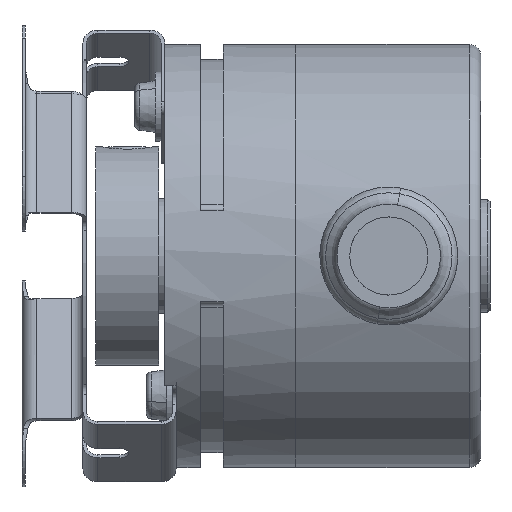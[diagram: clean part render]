
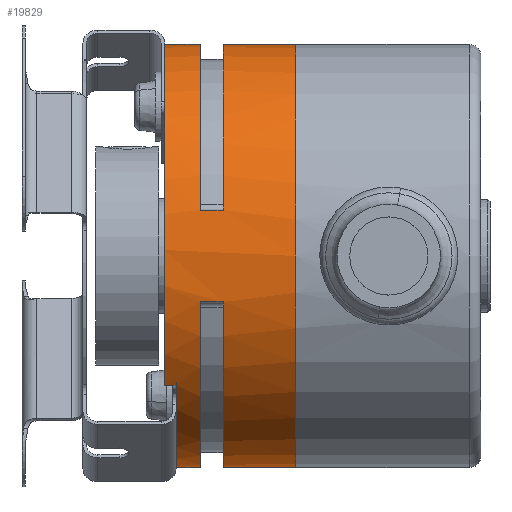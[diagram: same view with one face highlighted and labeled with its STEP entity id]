
A CAD part, front view. The second image highlights one B-rep face of the part: STEP entity #19829.
In plain terms, the highlighted cylindrical face has radius 18.4 mm (diameter 36.8 mm), a partial arc.
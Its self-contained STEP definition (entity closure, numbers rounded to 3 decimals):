
#17689 = VERTEX_POINT ( 'NONE', #20720 ) ;
#17690 = VERTEX_POINT ( 'NONE', #20719 ) ;
#17692 = EDGE_CURVE ( 'NONE', #17690, #17693, #20718, .T. ) ;
#17693 = VERTEX_POINT ( 'NONE', #20714 ) ;
#17716 = VERTEX_POINT ( 'NONE', #20771 ) ;
#17718 = EDGE_CURVE ( 'NONE', #17716, #17719, #20770, .T. ) ;
#17719 = VERTEX_POINT ( 'NONE', #20831 ) ;
#17722 = VERTEX_POINT ( 'NONE', #20825 ) ;
#17731 = VERTEX_POINT ( 'NONE', #20807 ) ;
#17733 = EDGE_CURVE ( 'NONE', #17689, #17731, #20805, .T. ) ;
#17807 = EDGE_CURVE ( 'NONE', #17808, #17722, #21092, .T. ) ;
#17808 = VERTEX_POINT ( 'NONE', #21088 ) ;
#19753 = ORIENTED_EDGE ( 'NONE', *, *, #19754, .F. ) ;
#19754 = EDGE_CURVE ( 'NONE', #19755, #17722, #32116, .T. ) ;
#19755 = VERTEX_POINT ( 'NONE', #32107 ) ;
#19764 = ORIENTED_EDGE ( 'NONE', *, *, #19765, .T. ) ;
#19765 = EDGE_CURVE ( 'NONE', #19787, #19766, #32133, .T. ) ;
#19766 = VERTEX_POINT ( 'NONE', #32129 ) ;
#19767 = ORIENTED_EDGE ( 'NONE', *, *, #19768, .F. ) ;
#19768 = EDGE_CURVE ( 'NONE', #17808, #19766, #32128, .T. ) ;
#19769 = ORIENTED_EDGE ( 'NONE', *, *, #17807, .T. ) ;
#19783 = ORIENTED_EDGE ( 'NONE', *, *, #19837, .T. ) ;
#19784 = ORIENTED_EDGE ( 'NONE', *, *, #17733, .T. ) ;
#19785 = ORIENTED_EDGE ( 'NONE', *, *, #19786, .T. ) ;
#19786 = EDGE_CURVE ( 'NONE', #17731, #19787, #32170, .T. ) ;
#19787 = VERTEX_POINT ( 'NONE', #32165 ) ;
#19801 = ORIENTED_EDGE ( 'NONE', *, *, #19816, .F. ) ;
#19802 = VERTEX_POINT ( 'NONE', #32196 ) ;
#19803 = ORIENTED_EDGE ( 'NONE', *, *, #19811, .T. ) ;
#19805 = ORIENTED_EDGE ( 'NONE', *, *, #19819, .F. ) ;
#19806 = ORIENTED_EDGE ( 'NONE', *, *, #19875, .F. ) ;
#19808 = ORIENTED_EDGE ( 'NONE', *, *, #17718, .F. ) ;
#19811 = EDGE_CURVE ( 'NONE', #19821, #19877, #32189, .T. ) ;
#19815 = EDGE_CURVE ( 'NONE', #19802, #17716, #32179, .T. ) ;
#19816 = EDGE_CURVE ( 'NONE', #17719, #19877, #32235, .T. ) ;
#19819 = EDGE_CURVE ( 'NONE', #19874, #19755, #32228, .T. ) ;
#19821 = VERTEX_POINT ( 'NONE', #32270 ) ;
#19829 = ADVANCED_FACE ( 'NONE', ( #32251 ), #32295, .T. ) ;
#19830 = EDGE_LOOP ( 'NONE', ( #19831, #19783, #19784, #19785, #19764, #19767, #19769, #19753, #19805, #19869, #19803, #19801, #19808, #19878, #19806, #19870 ) ) ;
#19831 = ORIENTED_EDGE ( 'NONE', *, *, #17692, .F. ) ;
#19837 = EDGE_CURVE ( 'NONE', #17690, #17689, #32318, .T. ) ;
#19868 = EDGE_CURVE ( 'NONE', #19821, #19874, #32417, .T. ) ;
#19869 = ORIENTED_EDGE ( 'NONE', *, *, #19868, .F. ) ;
#19870 = ORIENTED_EDGE ( 'NONE', *, *, #19871, .T. ) ;
#19871 = EDGE_CURVE ( 'NONE', #19876, #17693, #32411, .T. ) ;
#19874 = VERTEX_POINT ( 'NONE', #32441 ) ;
#19875 = EDGE_CURVE ( 'NONE', #19876, #19802, #32440, .T. ) ;
#19876 = VERTEX_POINT ( 'NONE', #32436 ) ;
#19877 = VERTEX_POINT ( 'NONE', #32435 ) ;
#19878 = ORIENTED_EDGE ( 'NONE', *, *, #19815, .F. ) ;
#20714 = CARTESIAN_POINT ( 'NONE',  ( 86.26, -17.498, -18.4 ) ) ;
#20715 = DIRECTION ( 'NONE',  ( -1., 0., 0. ) ) ;
#20716 = VECTOR ( 'NONE', #20715, 1000. ) ;
#20717 = CARTESIAN_POINT ( 'NONE',  ( 76.76, -17.498, -18.4 ) ) ;
#20718 = LINE ( 'NONE', #20717, #20716 ) ;
#20719 = CARTESIAN_POINT ( 'NONE',  ( 92.56, -17.498, -18.4 ) ) ;
#20720 = CARTESIAN_POINT ( 'NONE',  ( 92.56, -17.498, 18.4 ) ) ;
#20770 = LINE ( 'NONE', #20834, #20833 ) ;
#20771 = CARTESIAN_POINT ( 'NONE',  ( 84.26, -17.498, -18.4 ) ) ;
#20802 = DIRECTION ( 'NONE',  ( -1., 0., 0. ) ) ;
#20803 = VECTOR ( 'NONE', #20802, 1000. ) ;
#20804 = CARTESIAN_POINT ( 'NONE',  ( 76.76, -17.498, 18.4 ) ) ;
#20805 = LINE ( 'NONE', #20804, #20803 ) ;
#20807 = CARTESIAN_POINT ( 'NONE',  ( 86.26, -17.498, 18.4 ) ) ;
#20825 = CARTESIAN_POINT ( 'NONE',  ( 81.16, -17.498, 18.4 ) ) ;
#20831 = CARTESIAN_POINT ( 'NONE',  ( 81.16, -17.498, -18.4 ) ) ;
#20832 = DIRECTION ( 'NONE',  ( -1., 0., 0. ) ) ;
#20833 = VECTOR ( 'NONE', #20832, 1000. ) ;
#20834 = CARTESIAN_POINT ( 'NONE',  ( 76.76, -17.498, -18.4 ) ) ;
#21088 = CARTESIAN_POINT ( 'NONE',  ( 84.26, -17.498, 18.4 ) ) ;
#21089 = DIRECTION ( 'NONE',  ( -1., 0., 0. ) ) ;
#21090 = VECTOR ( 'NONE', #21089, 1000. ) ;
#21091 = CARTESIAN_POINT ( 'NONE',  ( 76.76, -17.498, 18.4 ) ) ;
#21092 = LINE ( 'NONE', #21091, #21090 ) ;
#32107 = CARTESIAN_POINT ( 'NONE',  ( 81.16, -32.069, -11.237 ) ) ;
#32108 = DIRECTION ( 'NONE',  ( 0., 0., 1. ) ) ;
#32109 = DIRECTION ( 'NONE',  ( -1., 0., 0. ) ) ;
#32110 = CARTESIAN_POINT ( 'NONE',  ( 81.16, -17.498, 0. ) ) ;
#32111 = AXIS2_PLACEMENT_3D ( 'NONE', #32110, #32109, #32108 ) ;
#32116 = CIRCLE ( 'NONE', #32111, 18.4 ) ;
#32123 = DIRECTION ( 'NONE',  ( 0., 0., -1. ) ) ;
#32124 = DIRECTION ( 'NONE',  ( 1., 0., 0. ) ) ;
#32126 = CARTESIAN_POINT ( 'NONE',  ( 84.26, -17.498, 0. ) ) ;
#32127 = AXIS2_PLACEMENT_3D ( 'NONE', #32126, #32124, #32123 ) ;
#32128 = CIRCLE ( 'NONE', #32127, 18.4 ) ;
#32129 = CARTESIAN_POINT ( 'NONE',  ( 84.26, -35.458, 4. ) ) ;
#32130 = DIRECTION ( 'NONE',  ( -1., 0., 0. ) ) ;
#32131 = VECTOR ( 'NONE', #32130, 1000. ) ;
#32132 = CARTESIAN_POINT ( 'NONE',  ( 86.26, -35.458, 4. ) ) ;
#32133 = LINE ( 'NONE', #32132, #32131 ) ;
#32165 = CARTESIAN_POINT ( 'NONE',  ( 86.26, -35.458, 4. ) ) ;
#32166 = DIRECTION ( 'NONE',  ( 0., 0., -1. ) ) ;
#32167 = DIRECTION ( 'NONE',  ( 1., 0., 0. ) ) ;
#32168 = CARTESIAN_POINT ( 'NONE',  ( 86.26, -17.498, 0. ) ) ;
#32169 = AXIS2_PLACEMENT_3D ( 'NONE', #32168, #32167, #32166 ) ;
#32170 = CIRCLE ( 'NONE', #32169, 18.4 ) ;
#32177 = CARTESIAN_POINT ( 'NONE',  ( 84.26, -17.498, 0. ) ) ;
#32178 = AXIS2_PLACEMENT_3D ( 'NONE', #32177, #32237, #32236 ) ;
#32179 = CIRCLE ( 'NONE', #32178, 18.4 ) ;
#32186 = DIRECTION ( 'NONE',  ( -1., 0., 0. ) ) ;
#32187 = VECTOR ( 'NONE', #32186, 1000. ) ;
#32188 = CARTESIAN_POINT ( 'NONE',  ( 82.16, -19.944, -18.237 ) ) ;
#32189 = LINE ( 'NONE', #32188, #32187 ) ;
#32196 = CARTESIAN_POINT ( 'NONE',  ( 84.26, -35.458, -4. ) ) ;
#32225 = DIRECTION ( 'NONE',  ( -1., 0., 0. ) ) ;
#32226 = VECTOR ( 'NONE', #32225, 1000. ) ;
#32227 = CARTESIAN_POINT ( 'NONE',  ( 82.16, -32.069, -11.237 ) ) ;
#32228 = LINE ( 'NONE', #32227, #32226 ) ;
#32231 = DIRECTION ( 'NONE',  ( 0., 0., 1. ) ) ;
#32232 = DIRECTION ( 'NONE',  ( -1., 0., 0. ) ) ;
#32233 = CARTESIAN_POINT ( 'NONE',  ( 81.16, -17.498, 0. ) ) ;
#32234 = AXIS2_PLACEMENT_3D ( 'NONE', #32233, #32232, #32231 ) ;
#32235 = CIRCLE ( 'NONE', #32234, 18.4 ) ;
#32236 = DIRECTION ( 'NONE',  ( 0., 0., -1. ) ) ;
#32237 = DIRECTION ( 'NONE',  ( 1., 0., 0. ) ) ;
#32251 = FACE_OUTER_BOUND ( 'NONE', #19830, .T. ) ;
#32270 = CARTESIAN_POINT ( 'NONE',  ( 82.16, -19.944, -18.237 ) ) ;
#32292 = DIRECTION ( 'NONE',  ( 0., 0., 1. ) ) ;
#32293 = DIRECTION ( 'NONE',  ( -1., 0., 0. ) ) ;
#32294 = AXIS2_PLACEMENT_3D ( 'NONE', #32298, #32293, #32292 ) ;
#32295 = CYLINDRICAL_SURFACE ( 'NONE', #32294, 18.4 ) ;
#32298 = CARTESIAN_POINT ( 'NONE',  ( 76.76, -17.498, 0. ) ) ;
#32315 = DIRECTION ( 'NONE',  ( 0., 0., 1. ) ) ;
#32316 = DIRECTION ( 'NONE',  ( -1., 0., 0. ) ) ;
#32317 = AXIS2_PLACEMENT_3D ( 'NONE', #32324, #32316, #32315 ) ;
#32318 = CIRCLE ( 'NONE', #32317, 18.4 ) ;
#32324 = CARTESIAN_POINT ( 'NONE',  ( 92.56, -17.498, 0. ) ) ;
#32407 = DIRECTION ( 'NONE',  ( 0., 0., -1. ) ) ;
#32408 = DIRECTION ( 'NONE',  ( 1., 0., 0. ) ) ;
#32409 = CARTESIAN_POINT ( 'NONE',  ( 86.26, -17.498, 0. ) ) ;
#32410 = AXIS2_PLACEMENT_3D ( 'NONE', #32409, #32408, #32407 ) ;
#32411 = CIRCLE ( 'NONE', #32410, 18.4 ) ;
#32413 = DIRECTION ( 'NONE',  ( 0., 0., 1. ) ) ;
#32414 = DIRECTION ( 'NONE',  ( -1., 0., 0. ) ) ;
#32415 = CARTESIAN_POINT ( 'NONE',  ( 82.16, -17.498, 0. ) ) ;
#32416 = AXIS2_PLACEMENT_3D ( 'NONE', #32415, #32414, #32413 ) ;
#32417 = CIRCLE ( 'NONE', #32416, 18.4 ) ;
#32435 = CARTESIAN_POINT ( 'NONE',  ( 81.16, -19.944, -18.237 ) ) ;
#32436 = CARTESIAN_POINT ( 'NONE',  ( 86.26, -35.458, -4. ) ) ;
#32437 = DIRECTION ( 'NONE',  ( -1., 0., 0. ) ) ;
#32438 = VECTOR ( 'NONE', #32437, 1000. ) ;
#32439 = CARTESIAN_POINT ( 'NONE',  ( 86.26, -35.458, -4. ) ) ;
#32440 = LINE ( 'NONE', #32439, #32438 ) ;
#32441 = CARTESIAN_POINT ( 'NONE',  ( 82.16, -32.069, -11.237 ) ) ;
